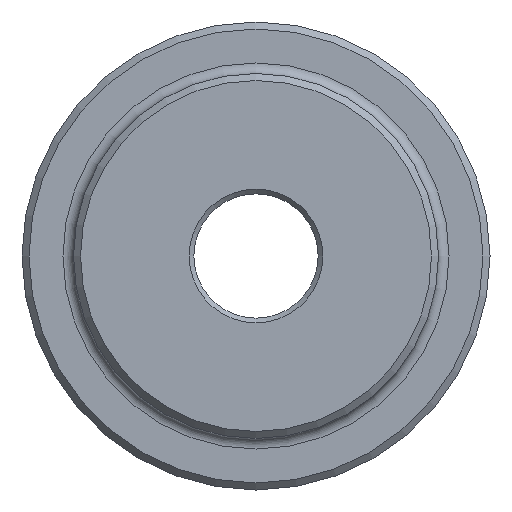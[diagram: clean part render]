
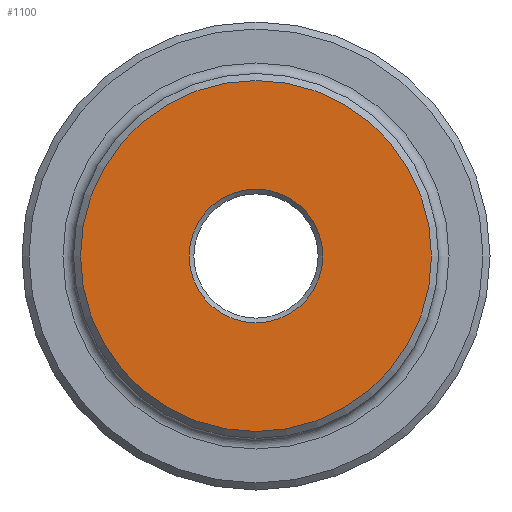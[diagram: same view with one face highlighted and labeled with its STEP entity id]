
A CAD part, left-side view. The second image highlights one B-rep face of the part: STEP entity #1100.
In plain terms, the highlighted planar face has unit normal (-1, 0, 0).
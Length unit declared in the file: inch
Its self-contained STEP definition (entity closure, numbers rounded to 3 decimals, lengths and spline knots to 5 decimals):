
#18 = FACE_OUTER_BOUND ( 'NONE', #1774, .T. ) ;
#113 = DIRECTION ( 'NONE',  ( 0., 0., -1. ) ) ;
#326 = CARTESIAN_POINT ( 'NONE',  ( 0., 0., -1.5 ) ) ;
#364 = CARTESIAN_POINT ( 'NONE',  ( 0., 0., 0. ) ) ;
#474 = FACE_BOUND ( 'NONE', #907, .T. ) ;
#495 = AXIS2_PLACEMENT_3D ( 'NONE', #845, #1212, #611 ) ;
#611 = DIRECTION ( 'NONE',  ( 0., 0., -1. ) ) ;
#684 = ORIENTED_EDGE ( 'NONE', *, *, #1261, .T. ) ;
#730 = AXIS2_PLACEMENT_3D ( 'NONE', #364, #1040, #1257 ) ;
#845 = CARTESIAN_POINT ( 'NONE',  ( 0., 0., 0. ) ) ;
#907 = EDGE_LOOP ( 'NONE', ( #1302 ) ) ;
#950 = AXIS2_PLACEMENT_3D ( 'NONE', #1137, #1072, #113 ) ;
#958 = EDGE_CURVE ( 'NONE', #977, #977, #1669, .T. ) ;
#977 = VERTEX_POINT ( 'NONE', #1433 ) ;
#979 = VERTEX_POINT ( 'NONE', #326 ) ;
#1022 = CIRCLE ( 'NONE', #495, 1.5 ) ;
#1040 = DIRECTION ( 'NONE',  ( 1., 0., 0. ) ) ;
#1072 = DIRECTION ( 'NONE',  ( 1., 0., 0. ) ) ;
#1100 = ADVANCED_FACE ( 'NONE', ( #474, #18 ), #1592, .F. ) ;
#1137 = CARTESIAN_POINT ( 'NONE',  ( 0., 0., 0. ) ) ;
#1212 = DIRECTION ( 'NONE',  ( -1., 0., 0. ) ) ;
#1257 = DIRECTION ( 'NONE',  ( 0., 0., -1. ) ) ;
#1261 = EDGE_CURVE ( 'NONE', #979, #979, #1022, .T. ) ;
#1302 = ORIENTED_EDGE ( 'NONE', *, *, #958, .T. ) ;
#1433 = CARTESIAN_POINT ( 'NONE',  ( 0., 0., -0.5715 ) ) ;
#1592 = PLANE ( 'NONE',  #730 ) ;
#1669 = CIRCLE ( 'NONE', #950, 0.5715 ) ;
#1774 = EDGE_LOOP ( 'NONE', ( #684 ) ) ;
